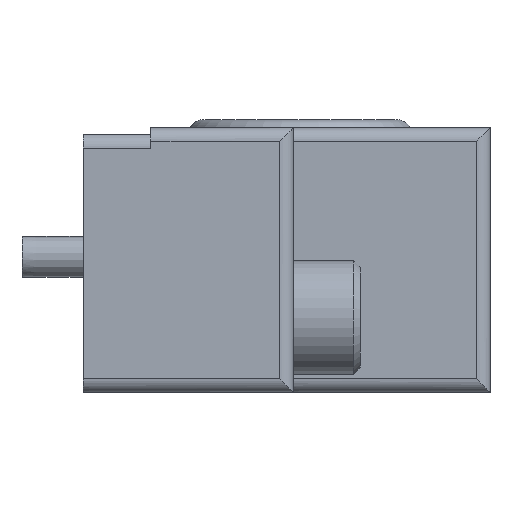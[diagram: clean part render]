
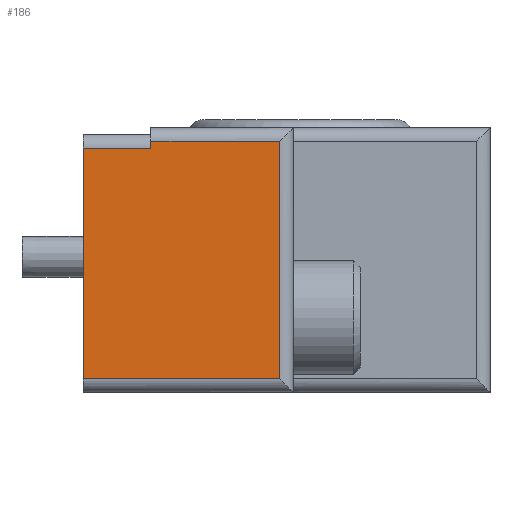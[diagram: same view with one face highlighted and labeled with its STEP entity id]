
A CAD part, left-side view. The second image highlights one B-rep face of the part: STEP entity #186.
In plain terms, the highlighted planar face has unit normal (-1, 0, 0).
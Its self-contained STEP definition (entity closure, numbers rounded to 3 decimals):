
#186=ADVANCED_FACE('',(#483),#484,.F.);
#483=FACE_OUTER_BOUND('',#948,.T.);
#484=PLANE('',#949);
#948=EDGE_LOOP('',(#1479,#1480,#1481,#1482,#1483,#1484));
#949=AXIS2_PLACEMENT_3D('',#1485,#1486,#1487);
#1479=ORIENTED_EDGE('',*,*,#2340,.T.);
#1480=ORIENTED_EDGE('',*,*,#2360,.T.);
#1481=ORIENTED_EDGE('',*,*,#2350,.T.);
#1482=ORIENTED_EDGE('',*,*,#2361,.T.);
#1483=ORIENTED_EDGE('',*,*,#2362,.T.);
#1484=ORIENTED_EDGE('',*,*,#2363,.T.);
#1485=CARTESIAN_POINT('',(-33.0,-5.,9.5));
#1486=DIRECTION('',(1.0,0.0,0.0));
#1487=DIRECTION('',(0.0,1.0,0.0));
#2340=EDGE_CURVE('',#2714,#2712,#2715,.T.);
#2350=EDGE_CURVE('',#2730,#2731,#2732,.T.);
#2360=EDGE_CURVE('',#2712,#2730,#2747,.T.);
#2361=EDGE_CURVE('',#2731,#2748,#2749,.T.);
#2362=EDGE_CURVE('',#2748,#2750,#2751,.T.);
#2363=EDGE_CURVE('',#2750,#2714,#2752,.T.);
#2712=VERTEX_POINT('',#3316);
#2714=VERTEX_POINT('',#3318);
#2715=LINE('',#3319,#3320);
#2730=VERTEX_POINT('',#3339);
#2731=VERTEX_POINT('',#3340);
#2732=LINE('',#3341,#3342);
#2747=LINE('',#3360,#3361);
#2748=VERTEX_POINT('',#3362);
#2749=LINE('',#3363,#3364);
#2750=VERTEX_POINT('',#3365);
#2751=LINE('',#3366,#3367);
#2752=LINE('',#3368,#3369);
#3316=CARTESIAN_POINT('',(-33.0,-14.5,-9.0));
#3318=CARTESIAN_POINT('',(-33.0,0.,-9.0));
#3319=CARTESIAN_POINT('',(-33.0,-5.,-9.0));
#3320=VECTOR('',#4005,1.0);
#3339=CARTESIAN_POINT('',(-33.0,-14.5,8.5));
#3340=CARTESIAN_POINT('',(-33.0,-5.,8.5));
#3341=CARTESIAN_POINT('',(-33.0,-5.,8.5));
#3342=VECTOR('',#4016,1.0);
#3360=CARTESIAN_POINT('',(-33.0,-14.5,9.5));
#3361=VECTOR('',#4032,1.0);
#3362=CARTESIAN_POINT('',(-33.0,-5.0,8.0));
#3363=CARTESIAN_POINT('',(-33.0,-5.,9.5));
#3364=VECTOR('',#4033,1.0);
#3365=CARTESIAN_POINT('',(-33.0,0.,8.0));
#3366=CARTESIAN_POINT('',(-33.0,-5.0,8.0));
#3367=VECTOR('',#4034,1.0);
#3368=CARTESIAN_POINT('',(-33.0,0.,9.0));
#3369=VECTOR('',#4035,1.0);
#4005=DIRECTION('',(0.0,-1.0,0.0));
#4016=DIRECTION('',(0.0,1.0,0.0));
#4032=DIRECTION('',(0.0,0.0,1.0));
#4033=DIRECTION('',(0.0,0.0,-1.0));
#4034=DIRECTION('',(0.0,1.0,0.0));
#4035=DIRECTION('',(0.0,0.0,-1.0));
